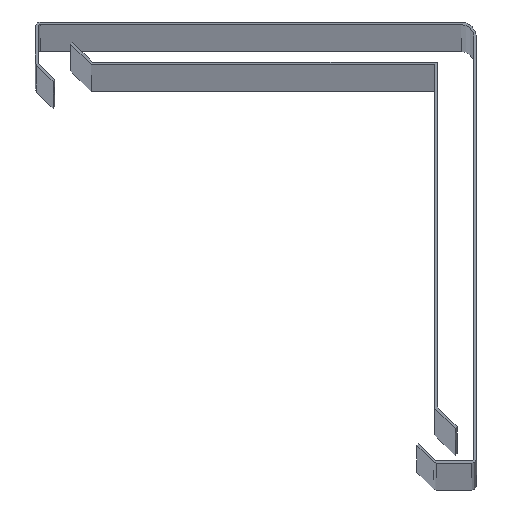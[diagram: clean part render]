
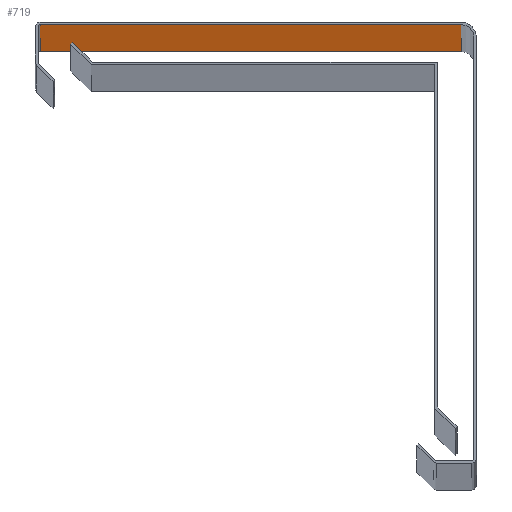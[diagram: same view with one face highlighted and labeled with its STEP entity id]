
A CAD part, top view. The second image highlights one B-rep face of the part: STEP entity #719.
In plain terms, the highlighted planar face has unit normal (0, -1, 0).
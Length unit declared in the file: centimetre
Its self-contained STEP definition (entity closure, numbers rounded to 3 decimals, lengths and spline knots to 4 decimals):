
#77=FACE_OUTER_BOUND('',#115,.T.);
#115=EDGE_LOOP('',(#589,#590,#591,#592));
#191=LINE('',#1178,#273);
#192=LINE('',#1182,#274);
#193=LINE('',#1184,#275);
#194=LINE('',#1185,#276);
#273=VECTOR('',#966,1000.);
#274=VECTOR('',#971,1000.);
#275=VECTOR('',#972,1000.);
#276=VECTOR('',#973,1000.);
#343=VERTEX_POINT('',#1175);
#344=VERTEX_POINT('',#1177);
#345=VERTEX_POINT('',#1181);
#346=VERTEX_POINT('',#1183);
#438=EDGE_CURVE('',#344,#343,#191,.T.);
#440=EDGE_CURVE('',#343,#345,#192,.T.);
#441=EDGE_CURVE('',#346,#345,#193,.T.);
#442=EDGE_CURVE('',#344,#346,#194,.T.);
#589=ORIENTED_EDGE('',*,*,#440,.T.);
#590=ORIENTED_EDGE('',*,*,#441,.F.);
#591=ORIENTED_EDGE('',*,*,#442,.F.);
#592=ORIENTED_EDGE('',*,*,#438,.T.);
#683=PLANE('',#794);
#719=ADVANCED_FACE('',(#77),#683,.F.);
#794=AXIS2_PLACEMENT_3D('',#1180,#969,#970);
#966=DIRECTION('',(0.,0.,1.));
#969=DIRECTION('center_axis',(0.,1.,0.));
#970=DIRECTION('ref_axis',(-1.,0.,0.));
#971=DIRECTION('',(-1.,0.,0.));
#972=DIRECTION('',(0.,0.,1.));
#973=DIRECTION('',(-1.,0.,0.));
#1175=CARTESIAN_POINT('',(4.7288,7.6715,-139.0069));
#1177=CARTESIAN_POINT('',(4.7288,7.6715,-3187.0069));
#1178=CARTESIAN_POINT('',(4.7288,7.6715,-3187.0069));
#1180=CARTESIAN_POINT('Origin',(-78.6155,7.6715,-3187.0069));
#1181=CARTESIAN_POINT('',(-78.6155,7.6715,-139.0069));
#1182=CARTESIAN_POINT('',(-78.6155,7.6715,-139.0069));
#1183=CARTESIAN_POINT('',(-78.6155,7.6715,-3187.0069));
#1184=CARTESIAN_POINT('',(-78.6155,7.6715,-3187.0069));
#1185=CARTESIAN_POINT('',(-78.6155,7.6715,-3187.0069));
